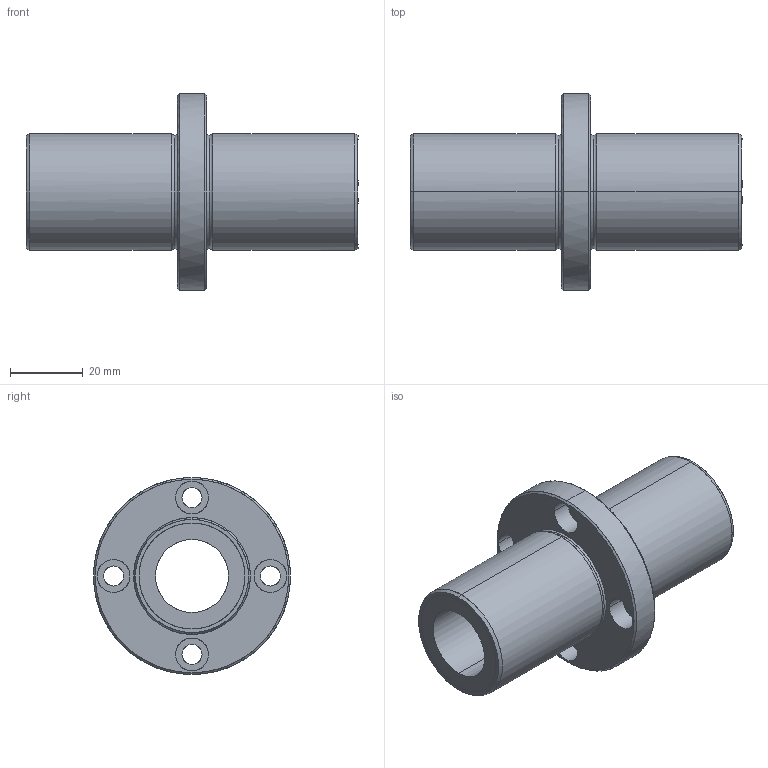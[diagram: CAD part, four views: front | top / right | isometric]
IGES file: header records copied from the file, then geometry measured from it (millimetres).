
Global section: file name: No Iges File Name specified; native system: AutoDesk Inventor R10; preprocessor: AutoDesk Inventor Iges Exporter R10; author: No Author specified; organization: No Organization specified; date: 20101216.153228; units: millimetre
Bounding box: 91 x 54 x 54 mm (x, y, z)
Surface area: 19859.7 mm2 (no closed solid volume)
Topology: 0 solids, 0 shells, 54 faces, 376 edges, 376 vertices
Faces by surface type: bspline 54
